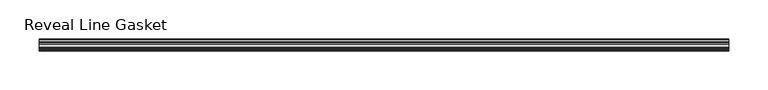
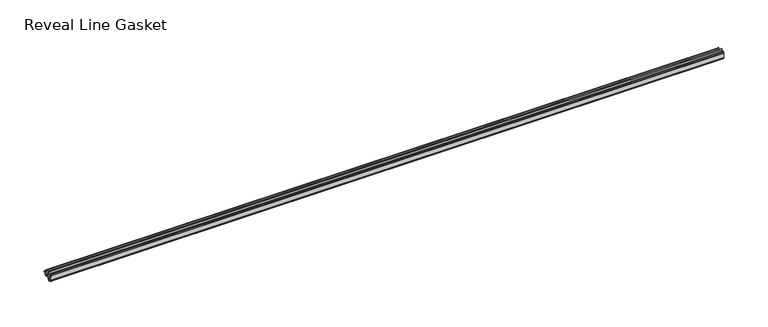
"""IFC4 building model written with IfcOpenShell, lengths in millimetres: proxy geometry, Accessories-Teknion-FHGR-AI_Healthcare-Reveal_Line_Gasket(Horizontal)-R2022 : Reveal Line Gasket."""

import ifcopenshell
import ifcopenshell.guid

model = None  # the IFC model being written
_history = None  # IfcOwnerHistory: only IFC2X3 demands one
_inside = {}  # id of a spatial element -> (the spatial element, [elements in it])
_under = {}  # id of a project, library or spatial element -> (it, [spatial elements below it])
_declared = {}  # id of a project -> (the project, [libraries it declares])
_typed = {}  # id of a type object -> (the type object, [elements of that type])
_made_of = {}  # id of a material, layer set ... -> (it, [elements and type objects made of it])


def new_model(schema):
    """Start an empty IFC model of exactly this schema.

    Asked for "IFC4X3", IfcOpenShell would pick the latest addendum, in which some entities
    have other attributes; the version numbers below select the first issue.
    IFC2X3 requires an IfcOwnerHistory on every rooted entity: one is made here for all.
    """
    global model, _history
    if schema == "IFC4X3":
        model = ifcopenshell.file(schema_version=(4, 3, 0, 0))
    else:
        model = ifcopenshell.file(schema=schema)
    _inside.clear()
    _under.clear()
    _declared.clear()
    _typed.clear()
    _made_of.clear()
    _history = None
    if model.schema == "IFC2X3":
        org = make("IfcOrganization", Name="unknown")
        user = make(
            "IfcPersonAndOrganization",
            ThePerson=make("IfcPerson", FamilyName="unknown"),
            TheOrganization=org,
        )
        app = make(
            "IfcApplication",
            ApplicationDeveloper=org,
            Version="unknown",
            ApplicationFullName="unknown",
            ApplicationIdentifier="unknown",
        )
        _history = make(
            "IfcOwnerHistory",
            OwningUser=user,
            OwningApplication=app,
            ChangeAction="ADDED",
            CreationDate=0,
        )
    return model


def make(cls, **values):
    """One entity of the class cls with the attributes given. An attribute that is None is left unset."""
    return model.create_entity(
        cls, **{name: value for name, value in values.items() if value is not None}
    )


def rooted(cls, **values):
    """An entity with a GlobalId (a new one), such as an element, a storey or a relation."""
    return make(cls, GlobalId=ifcopenshell.guid.new(), OwnerHistory=_history, **values)


def si_unit(unit_type, name, prefix=None):
    """IfcSIUnit, for example si_unit("LENGTHUNIT", "METRE", prefix="MILLI")."""
    return make("IfcSIUnit", UnitType=unit_type, Prefix=prefix, Name=name)


def assignment(units):
    """IfcUnitAssignment: the units of a project."""
    return None if units is None else make("IfcUnitAssignment", Units=units)


def point(xyz):
    """IfcCartesianPoint."""
    return None if xyz is None else make("IfcCartesianPoint", Coordinates=xyz)


def direction(xyz):
    """IfcDirection."""
    return None if xyz is None else make("IfcDirection", DirectionRatios=xyz)


def frame(location, z_axis=None, x_axis=None):
    """IfcAxis2Placement3D, a coordinate frame: its origin and axes. An axis left out is left unset."""
    return make(
        "IfcAxis2Placement3D",
        Location=point(location),
        Axis=direction(z_axis),
        RefDirection=direction(x_axis),
    )


def frame_2d(location, x_axis=None):
    """IfcAxis2Placement2D, a coordinate frame in the plane: its origin and x axis."""
    return make(
        "IfcAxis2Placement2D", Location=point(location), RefDirection=direction(x_axis)
    )


def origin():
    """The frame at (0, 0, 0) with its axes left unset."""
    return frame((0.0, 0.0, 0.0))


def place(relative_to, where):
    """IfcLocalPlacement: puts the frame where relative to a parent placement (None: the world)."""
    return make(
        "IfcLocalPlacement", PlacementRelTo=relative_to, RelativePlacement=where
    )


def context(
    kind, dimensions, precision=None, world=None, true_north=None, identifier=None
):
    """IfcGeometricRepresentationContext, for example the 3D "Model" context."""
    return make(
        "IfcGeometricRepresentationContext",
        ContextIdentifier=identifier,
        ContextType=kind,
        CoordinateSpaceDimension=dimensions,
        Precision=precision,
        WorldCoordinateSystem=world,
        TrueNorth=true_north,
    )


def project(units=None, contexts=None):
    """IfcProject with its units and contexts."""
    return rooted(
        "IfcProject",
        Name="project",
        RepresentationContexts=contexts,
        UnitsInContext=assignment(units),
    )


def spatial(cls, under=None, at=None, **own):
    """A site, building, storey or space (cls), placed at a placement, below another one or the project."""
    s = rooted(cls, ObjectPlacement=at, **own)
    if under is not None:
        _under.setdefault(under.id(), (under, []))[1].append(s)
    return s


def polyline(points):
    """IfcPolyline through the points."""
    return make("IfcPolyline", Points=[point(p) for p in points])


def circle_curve(where, radius):
    """IfcCircle in the frame where."""
    return make("IfcCircle", Position=where, Radius=radius)


def trimmed(basis, trim1, trim2, sense, master):
    """IfcTrimmedCurve: the piece of a basis curve between two trims."""
    return make(
        "IfcTrimmedCurve",
        BasisCurve=basis,
        Trim1=trim1,
        Trim2=trim2,
        SenseAgreement=sense,
        MasterRepresentation=master,
    )


def segment(curve, same_sense, transition):
    """IfcCompositeCurveSegment."""
    return make(
        "IfcCompositeCurveSegment",
        Transition=transition,
        SameSense=same_sense,
        ParentCurve=curve,
    )


def composite_curve(segments, self_intersect=None):
    """IfcCompositeCurve: segments joined end to end."""
    return make("IfcCompositeCurve", Segments=segments, SelfIntersect=self_intersect)


def outline(outer, holes=None, kind="AREA"):
    """IfcArbitraryClosedProfileDef: a profile drawn as a closed curve; with holes, ...WithVoids."""
    if holes is None:
        return make("IfcArbitraryClosedProfileDef", ProfileType=kind, OuterCurve=outer)
    return make(
        "IfcArbitraryProfileDefWithVoids",
        ProfileType=kind,
        OuterCurve=outer,
        InnerCurves=holes,
    )


def extrude(swept, where, along, depth):
    """IfcExtrudedAreaSolid: the profile swept, set in the frame where, extruded along a direction by depth."""
    return make(
        "IfcExtrudedAreaSolid",
        SweptArea=swept,
        Position=where,
        ExtrudedDirection=direction(along),
        Depth=depth,
    )


def shape(context_of_items, identifier, shape_type, items):
    """IfcShapeRepresentation: the items that make up one representation, for example the "Body"."""
    return make(
        "IfcShapeRepresentation",
        ContextOfItems=context_of_items,
        RepresentationIdentifier=identifier,
        RepresentationType=shape_type,
        Items=items,
    )


def source(mapping_origin, context_of_items, identifier, shape_type, items):
    """IfcRepresentationMap: a shape defined once, which mapped items show again and again."""
    return make(
        "IfcRepresentationMap",
        MappingOrigin=mapping_origin,
        MappedRepresentation=shape(context_of_items, identifier, shape_type, items),
    )


def transform(
    local_origin,
    x_axis=None,
    y_axis=None,
    z_axis=None,
    scale=None,
    scale2=None,
    scale3=None,
    uniform=True,
):
    """IfcCartesianTransformationOperator3D, or its non-uniform kind. x_axis, y_axis, z_axis: its Axis1, 2, 3."""
    if uniform:
        return make(
            "IfcCartesianTransformationOperator3D",
            Axis1=direction(x_axis),
            Axis2=direction(y_axis),
            LocalOrigin=point(local_origin),
            Scale=scale,
            Axis3=direction(z_axis),
        )
    return make(
        "IfcCartesianTransformationOperator3DnonUniform",
        Axis1=direction(x_axis),
        Axis2=direction(y_axis),
        LocalOrigin=point(local_origin),
        Scale=scale,
        Axis3=direction(z_axis),
        Scale2=scale2,
        Scale3=scale3,
    )


def mapped(mapping_source, mapping_target):
    """IfcMappedItem: shows the shape of a source again, moved by a transform."""
    return make(
        "IfcMappedItem", MappingSource=mapping_source, MappingTarget=mapping_target
    )


def made_of(thing, what):
    """Note that an element or type object is made of a material, layer set ...; save() writes the relation."""
    if what is not None:
        _made_of.setdefault(what.id(), (what, []))[1].append(thing)
    return thing


def element(
    cls,
    number,
    at=None,
    inside=None,
    cuts=None,
    type_object=None,
    material=None,
    context=None,
    identifier="Body",
    shape_type=None,
    held_by="IfcProductDefinitionShape",
    body=None,
    shapes=None,
    **own,
):
    """One element of the class cls, such as IfcWall. Its Tag is "e" and its number.

    at: its placement. inside: the storey or other place that contains it. cuts: it is an
    opening in that element (IfcRelVoidsElement). A single representation is given by context,
    identifier, shape_type and body (its items); several are given by shapes. held_by: the class
    of the entity that holds the representations. save() writes the other relations.
    """
    e = rooted(cls, Tag="e%d" % number, ObjectPlacement=at, **own)
    if body is not None:
        shapes = [shape(context, identifier, shape_type, body)]
    if shapes is not None:
        e.Representation = make(held_by, Representations=shapes)
    if inside is not None:
        _inside.setdefault(inside.id(), (inside, []))[1].append(e)
    if cuts is not None:
        rooted(
            "IfcRelVoidsElement", RelatingBuildingElement=cuts, RelatedOpeningElement=e
        )
    if type_object is not None:
        _typed.setdefault(type_object.id(), (type_object, []))[1].append(e)
    return made_of(e, material)


def aggregate(whole, parts):
    """IfcRelAggregates: a whole, such as a stair, and the parts it consists of."""
    return rooted("IfcRelAggregates", RelatingObject=whole, RelatedObjects=parts)


def save(model, path):
    """Write the relations noted so far, then the file.

    IfcRelAggregates (storeys below a building ...), IfcRelContainedInSpatialStructure (elements
    in a storey), IfcRelDefinesByType, IfcRelAssociatesMaterial and IfcRelDeclares: one each for
    every whole, place, type object, material and project.
    """
    for whole, parts in _under.values():
        aggregate(whole, parts)
    for where, things in _inside.values():
        rooted(
            "IfcRelContainedInSpatialStructure",
            RelatedElements=things,
            RelatingStructure=where,
        )
    for kind, things in _typed.values():
        rooted("IfcRelDefinesByType", RelatedObjects=things, RelatingType=kind)
    for what, things in _made_of.values():
        rooted("IfcRelAssociatesMaterial", RelatedObjects=things, RelatingMaterial=what)
    for by, libraries in _declared.values():
        rooted("IfcRelDeclares", RelatingContext=by, RelatedDefinitions=libraries)
    model.write(path)


def reveal_line_gasket_686965aa(model_context):
    return source(origin(), model_context, "Body", "SweptSolid", [
        extrude(outline(composite_curve([segment(polyline([(-7.6326998, 1603.2), (-7.4091917, 1604.1554927), (-6.8813059, 1605.0884684)]), True, "CONTINUOUS"), segment(trimmed(circle_curve(frame_2d((-6.5243141, 1604.8864793)), 0.4101739), [point((-6.8813059, 1605.0884684))], [point((-6.1246704, 1604.7941347))], False, "CARTESIAN"), True, "CONTINUOUS"), segment(polyline([(-6.1246704, 1604.7941347), (-6.3626997, 1603.0979086), (-6.3626997, 1601.0654527)]), True, "CONTINUOUS"), segment(trimmed(circle_curve(frame_2d((-5.6959605, 1601.4819258)), 0.786124), [point((-6.3626997, 1601.0654527))], [point((-5.0926996, 1600.977875))], True, "CARTESIAN"), True, "CONTINUOUS"), segment(polyline([(-5.0926996, 1600.977875), (-0.7492996, 1600.977875), (-3.7293824, 1606.1395295)]), True, "CONTINUOUS"), segment(trimmed(circle_curve(frame_2d((-3.3132479, 1606.2049761)), 0.4212495), [point((-3.7293824, 1606.1395295))], [point((-3.0485022, 1606.5326358))], False, "CARTESIAN"), True, "CONTINUOUS"), segment(polyline([(-3.0485022, 1606.5326358), (0.5742594, 1600.977875), (4.8262978, 1600.977875), (3.1660374, 1603.8535297)]), True, "CONTINUOUS"), segment(trimmed(circle_curve(frame_2d((3.5978728, 1603.9118855)), 0.4357605), [point((3.1660374, 1603.8535297))], [point((3.864328, 1604.2566881))], False, "CARTESIAN"), True, "CONTINUOUS"), segment(polyline([(3.864328, 1604.2566881), (6.1944059, 1600.977875), (7.6326998, 1600.977875), (7.6326998, 1599.422125), (6.1944059, 1599.422125), (3.864328, 1596.1433119)]), True, "CONTINUOUS"), segment(trimmed(circle_curve(frame_2d((3.5978728, 1596.4881145)), 0.4357605), [point((3.864328, 1596.1433119))], [point((3.1660374, 1596.5464703))], False, "CARTESIAN"), True, "CONTINUOUS"), segment(polyline([(3.1660374, 1596.5464703), (4.8262978, 1599.422125), (0.5742594, 1599.422125), (-3.0485022, 1593.8673642)]), True, "CONTINUOUS"), segment(trimmed(circle_curve(frame_2d((-3.3132479, 1594.1950239)), 0.4212495), [point((-3.0485022, 1593.8673642))], [point((-3.7293824, 1594.2604705))], False, "CARTESIAN"), True, "CONTINUOUS"), segment(polyline([(-3.7293824, 1594.2604705), (-0.7492996, 1599.422125), (-5.0926996, 1599.422125)]), True, "CONTINUOUS"), segment(trimmed(circle_curve(frame_2d((-5.6959605, 1598.9180742)), 0.786124), [point((-5.0926996, 1599.422125))], [point((-6.3626997, 1599.3345473))], True, "CARTESIAN"), True, "CONTINUOUS"), segment(polyline([(-6.3626997, 1599.3345473), (-6.3626997, 1597.3020914), (-6.1246704, 1595.6058653)]), True, "CONTINUOUS"), segment(trimmed(circle_curve(frame_2d((-6.5243141, 1595.5135207)), 0.4101739), [point((-6.1246704, 1595.6058653))], [point((-6.8813059, 1595.3115316))], False, "CARTESIAN"), True, "CONTINUOUS"), segment(polyline([(-6.8813059, 1595.3115316), (-7.4091917, 1596.2445073), (-7.6326998, 1597.2), (-7.6326998, 1603.2)]), True, "CONTINUOUS")], self_intersect=False)), frame((-439.1239898, 0.0, 0.0), z_axis=(1.0, 0.0, 0.0), x_axis=(0.0, 1.0, 0.0)), (0.0, 0.0, 1.0), 878.2479795),
    ])


if __name__ == "__main__":
    model = new_model("IFC4")
    model_context = context("Model", 3, world=origin())
    ifc_project = project(units=[si_unit("LENGTHUNIT", "METRE", prefix="MILLI")], contexts=[model_context])
    site = spatial("IfcSite", under=ifc_project)
    building = spatial("IfcBuilding", under=site)
    placement = place(None, origin())
    reveal_line_gasket_shape = reveal_line_gasket_686965aa(model_context)
    element("IfcBuildingElementProxy", 1, Name="Accessories-Teknion-FHGR-AI_Healthcare-Reveal_Line_Gasket(Horizontal)-R2022 : Reveal Line Gasket", ObjectType="Accessories-Teknion-FHGR-AI_Healthcare-Reveal_Line_Gasket(Horizontal)-R2022 : Reveal Line Gasket", at=placement, inside=building, context=model_context, shape_type="MappedRepresentation", body=[
        mapped(reveal_line_gasket_shape, transform((0.0, 0.0, 0.0), x_axis=(1.0, 0.0, 0.0), y_axis=(0.0, 1.0, 0.0), z_axis=(0.0, 0.0, 1.0))),
    ])
    save(model, "model.ifc")
